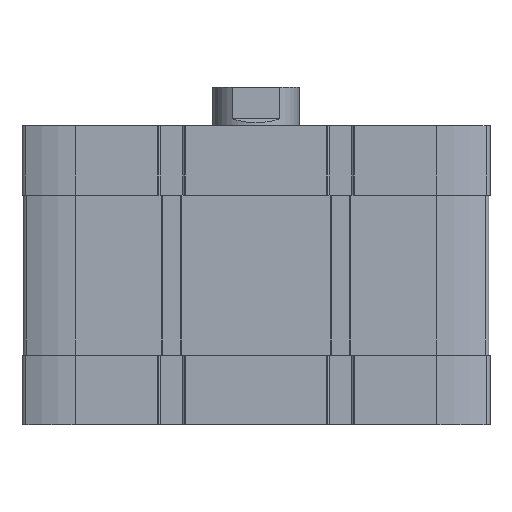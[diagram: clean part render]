
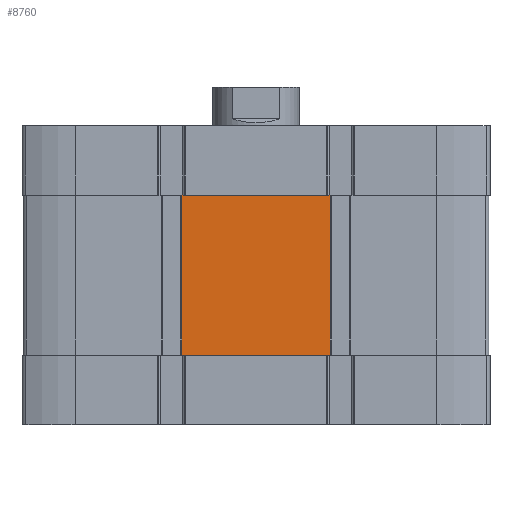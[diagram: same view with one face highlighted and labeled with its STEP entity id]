
A CAD part, front view. The second image highlights one B-rep face of the part: STEP entity #8760.
In plain terms, the highlighted planar face has unit normal (0, -1, 0).
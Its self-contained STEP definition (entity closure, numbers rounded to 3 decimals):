
#20 = VECTOR ( 'NONE', #10214, 1000. ) ;
#166 = LINE ( 'NONE', #5372, #11218 ) ;
#175 = CARTESIAN_POINT ( 'NONE',  ( 21.3, -67., -66. ) ) ;
#467 = EDGE_CURVE ( 'NONE', #8177, #2357, #4361, .T. ) ;
#684 = VECTOR ( 'NONE', #1305, 1000. ) ;
#1279 = EDGE_CURVE ( 'NONE', #2124, #2357, #16592, .T. ) ;
#1305 = DIRECTION ( 'NONE',  ( 1., 0., 0. ) ) ;
#1509 = AXIS2_PLACEMENT_3D ( 'NONE', #2934, #7024, #5619 ) ;
#1815 = FACE_OUTER_BOUND ( 'NONE', #9356, .T. ) ;
#1836 = DIRECTION ( 'NONE',  ( 1., 0., 0. ) ) ;
#2124 = VERTEX_POINT ( 'NONE', #15200 ) ;
#2357 = VERTEX_POINT ( 'NONE', #6818 ) ;
#2888 = ORIENTED_EDGE ( 'NONE', *, *, #10197, .T. ) ;
#2934 = CARTESIAN_POINT ( 'NONE',  ( -67., -67., -66. ) ) ;
#2976 = VERTEX_POINT ( 'NONE', #13580 ) ;
#3755 = VECTOR ( 'NONE', #1836, 1000. ) ;
#3773 = CARTESIAN_POINT ( 'NONE',  ( -67., -67., -20. ) ) ;
#3776 = DIRECTION ( 'NONE',  ( 0., 0., 1. ) ) ;
#4123 = EDGE_CURVE ( 'NONE', #7444, #2124, #166, .T. ) ;
#4212 = EDGE_CURVE ( 'NONE', #11960, #11923, #5276, .T. ) ;
#4361 = LINE ( 'NONE', #9678, #6095 ) ;
#4483 = PLANE ( 'NONE',  #1509 ) ;
#4889 = EDGE_CURVE ( 'NONE', #2976, #11960, #17070, .T. ) ;
#5145 = CARTESIAN_POINT ( 'NONE',  ( -67., -67., -66. ) ) ;
#5276 = LINE ( 'NONE', #9385, #684 ) ;
#5372 = CARTESIAN_POINT ( 'NONE',  ( -21.3, -67., -20. ) ) ;
#5619 = DIRECTION ( 'NONE',  ( 0., 0., -1. ) ) ;
#6095 = VECTOR ( 'NONE', #12637, 1000. ) ;
#6188 = EDGE_CURVE ( 'NONE', #10623, #7444, #7772, .T. ) ;
#6224 = CARTESIAN_POINT ( 'NONE',  ( -67., -67., -20. ) ) ;
#6790 = LINE ( 'NONE', #8440, #3755 ) ;
#6818 = CARTESIAN_POINT ( 'NONE',  ( 21.3, -67., -20. ) ) ;
#6976 = CARTESIAN_POINT ( 'NONE',  ( -21.3, -67., -66. ) ) ;
#7024 = DIRECTION ( 'NONE',  ( 0., -1., 0. ) ) ;
#7444 = VERTEX_POINT ( 'NONE', #14603 ) ;
#7745 = EDGE_CURVE ( 'NONE', #2976, #10623, #10386, .T. ) ;
#7772 = LINE ( 'NONE', #3773, #20 ) ;
#8177 = VERTEX_POINT ( 'NONE', #175 ) ;
#8233 = VECTOR ( 'NONE', #14458, 1000. ) ;
#8440 = CARTESIAN_POINT ( 'NONE',  ( -67., -67., -66. ) ) ;
#8760 = ADVANCED_FACE ( 'NONE', ( #1815 ), #4483, .T. ) ;
#9356 = EDGE_LOOP ( 'NONE', ( #10780, #13191, #13038, #2888, #17096, #14409, #14558, #10276 ) ) ;
#9385 = CARTESIAN_POINT ( 'NONE',  ( -21.3, -67., -66. ) ) ;
#9518 = VECTOR ( 'NONE', #3776, 1000. ) ;
#9678 = CARTESIAN_POINT ( 'NONE',  ( 21.3, -67., -66. ) ) ;
#10197 = EDGE_CURVE ( 'NONE', #11923, #8177, #6790, .T. ) ;
#10214 = DIRECTION ( 'NONE',  ( 1., 0., 0. ) ) ;
#10276 = ORIENTED_EDGE ( 'NONE', *, *, #6188, .F. ) ;
#10303 = DIRECTION ( 'NONE',  ( 1., 0., 0. ) ) ;
#10386 = LINE ( 'NONE', #6976, #9518 ) ;
#10623 = VERTEX_POINT ( 'NONE', #13731 ) ;
#10780 = ORIENTED_EDGE ( 'NONE', *, *, #7745, .F. ) ;
#11218 = VECTOR ( 'NONE', #13126, 1000. ) ;
#11923 = VERTEX_POINT ( 'NONE', #14083 ) ;
#11960 = VERTEX_POINT ( 'NONE', #13987 ) ;
#12637 = DIRECTION ( 'NONE',  ( 0., 0., 1. ) ) ;
#13038 = ORIENTED_EDGE ( 'NONE', *, *, #4212, .T. ) ;
#13126 = DIRECTION ( 'NONE',  ( 1., 0., 0. ) ) ;
#13191 = ORIENTED_EDGE ( 'NONE', *, *, #4889, .T. ) ;
#13580 = CARTESIAN_POINT ( 'NONE',  ( -21.3, -67., -66. ) ) ;
#13731 = CARTESIAN_POINT ( 'NONE',  ( -21.3, -67., -20. ) ) ;
#13987 = CARTESIAN_POINT ( 'NONE',  ( -20.687, -67., -66. ) ) ;
#14083 = CARTESIAN_POINT ( 'NONE',  ( 20.687, -67., -66. ) ) ;
#14409 = ORIENTED_EDGE ( 'NONE', *, *, #1279, .F. ) ;
#14458 = DIRECTION ( 'NONE',  ( 1., 0., 0. ) ) ;
#14558 = ORIENTED_EDGE ( 'NONE', *, *, #4123, .F. ) ;
#14603 = CARTESIAN_POINT ( 'NONE',  ( -20.687, -67., -20. ) ) ;
#15200 = CARTESIAN_POINT ( 'NONE',  ( 20.687, -67., -20. ) ) ;
#16592 = LINE ( 'NONE', #6224, #16941 ) ;
#16941 = VECTOR ( 'NONE', #10303, 1000. ) ;
#17070 = LINE ( 'NONE', #5145, #8233 ) ;
#17096 = ORIENTED_EDGE ( 'NONE', *, *, #467, .T. ) ;
